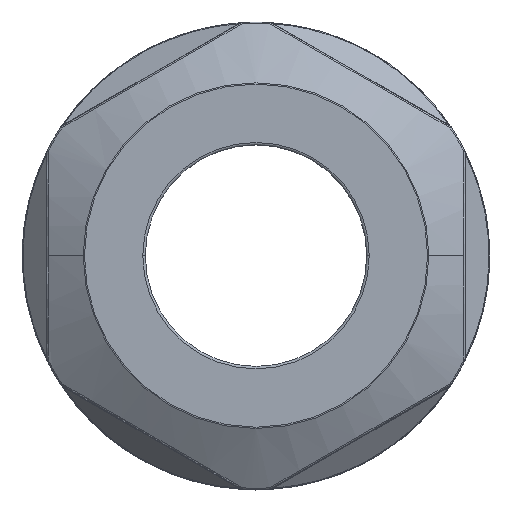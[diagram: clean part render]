
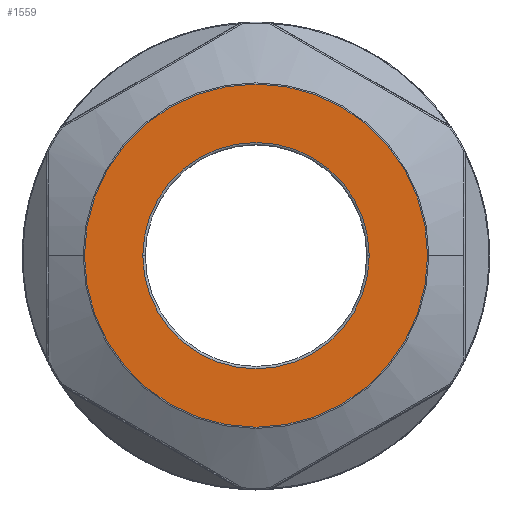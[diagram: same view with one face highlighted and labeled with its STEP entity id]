
A CAD part, top view. The second image highlights one B-rep face of the part: STEP entity #1559.
In plain terms, the highlighted planar face has unit normal (0, 0, 1).
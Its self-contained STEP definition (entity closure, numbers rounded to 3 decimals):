
#241 = ORIENTED_EDGE ( 'NONE', *, *, #3096, .T. ) ;
#255 = CARTESIAN_POINT ( 'NONE',  ( 6.973, 0., 0. ) ) ;
#530 = CARTESIAN_POINT ( 'NONE',  ( 0., 0., 0. ) ) ;
#536 = DIRECTION ( 'NONE',  ( 0., 0., -1. ) ) ;
#551 = DIRECTION ( 'NONE',  ( 1., 0., 0. ) ) ;
#638 = VERTEX_POINT ( 'NONE', #1360 ) ;
#709 = VERTEX_POINT ( 'NONE', #1462 ) ;
#746 = EDGE_LOOP ( 'NONE', ( #3775, #1384 ) ) ;
#753 = CARTESIAN_POINT ( 'NONE',  ( 0., 0., 0. ) ) ;
#883 = EDGE_LOOP ( 'NONE', ( #1529, #241 ) ) ;
#938 = AXIS2_PLACEMENT_3D ( 'NONE', #530, #536, #551 ) ;
#1031 = CARTESIAN_POINT ( 'NONE',  ( 0., 0., 0. ) ) ;
#1057 = CARTESIAN_POINT ( 'NONE',  ( 0., 0., 0. ) ) ;
#1140 = DIRECTION ( 'NONE',  ( 0., 0., -1. ) ) ;
#1164 = DIRECTION ( 'NONE',  ( 1., 0., 0. ) ) ;
#1263 = EDGE_CURVE ( 'NONE', #1963, #638, #2640, .T. ) ;
#1360 = CARTESIAN_POINT ( 'NONE',  ( 4.6, 0., 0. ) ) ;
#1384 = ORIENTED_EDGE ( 'NONE', *, *, #1263, .T. ) ;
#1385 = PLANE ( 'NONE',  #3060 ) ;
#1405 = DIRECTION ( 'NONE',  ( 0., 0., 1. ) ) ;
#1418 = EDGE_CURVE ( 'NONE', #638, #1963, #2402, .T. ) ;
#1419 = DIRECTION ( 'NONE',  ( 1., 0., 0. ) ) ;
#1462 = CARTESIAN_POINT ( 'NONE',  ( -6.973, 0., 0. ) ) ;
#1529 = ORIENTED_EDGE ( 'NONE', *, *, #3959, .T. ) ;
#1559 = ADVANCED_FACE ( 'NONE', ( #2262, #2255 ), #1385, .T. ) ;
#1817 = DIRECTION ( 'NONE',  ( 1., 0., 0. ) ) ;
#1931 = CARTESIAN_POINT ( 'NONE',  ( 0., 0., 0. ) ) ;
#1963 = VERTEX_POINT ( 'NONE', #4938 ) ;
#2255 = FACE_BOUND ( 'NONE', #746, .T. ) ;
#2262 = FACE_OUTER_BOUND ( 'NONE', #883, .T. ) ;
#2330 = DIRECTION ( 'NONE',  ( 1., 0., 0. ) ) ;
#2355 = AXIS2_PLACEMENT_3D ( 'NONE', #1031, #1140, #1817 ) ;
#2402 = CIRCLE ( 'NONE', #938, 4.6 ) ;
#2465 = AXIS2_PLACEMENT_3D ( 'NONE', #1931, #4610, #2330 ) ;
#2640 = CIRCLE ( 'NONE', #2355, 4.6 ) ;
#2775 = AXIS2_PLACEMENT_3D ( 'NONE', #753, #3494, #1164 ) ;
#2987 = CIRCLE ( 'NONE', #2775, 6.973 ) ;
#3060 = AXIS2_PLACEMENT_3D ( 'NONE', #1057, #1405, #1419 ) ;
#3096 = EDGE_CURVE ( 'NONE', #709, #3470, #4578, .T. ) ;
#3470 = VERTEX_POINT ( 'NONE', #255 ) ;
#3494 = DIRECTION ( 'NONE',  ( 0., 0., 1. ) ) ;
#3775 = ORIENTED_EDGE ( 'NONE', *, *, #1418, .T. ) ;
#3959 = EDGE_CURVE ( 'NONE', #3470, #709, #2987, .T. ) ;
#4578 = CIRCLE ( 'NONE', #2465, 6.973 ) ;
#4610 = DIRECTION ( 'NONE',  ( 0., 0., 1. ) ) ;
#4938 = CARTESIAN_POINT ( 'NONE',  ( -4.6, 0., 0. ) ) ;
